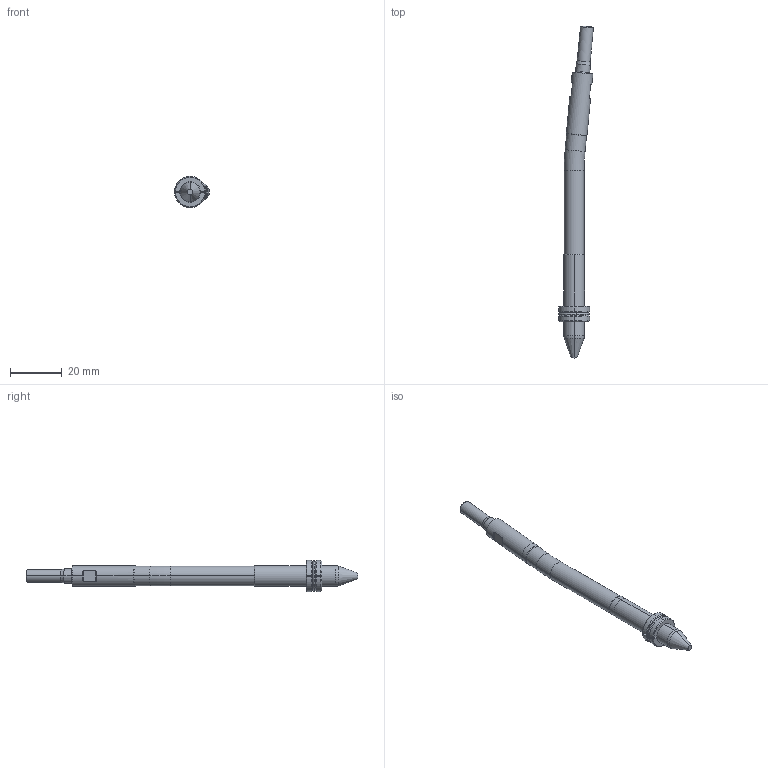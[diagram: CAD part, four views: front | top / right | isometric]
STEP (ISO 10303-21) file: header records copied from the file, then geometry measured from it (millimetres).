
FILE_DESCRIPTION (( 'STEP AP214' ), '1' );
FILE_NAME ('WP080030-INJ 5,5°.STEP', '2021-03-19T15:19:38', ( '' ), ( '' ), 'SwSTEP 2.0', 'SolidWorks 2019', '' );
FILE_SCHEMA (( 'AUTOMOTIVE_DESIGN' ));
Length unit declared in the file: millimetre
Products named in the file (6): WP080030-INJ 5,5°; Web-WP08-1; Web-WP08-7; Web-WP08-F_WP08-F-OFF 5,5ø; Web-WP08-2; Web-WP08-6
Assembly tree (5 placements, depth 2):
  WP080030-INJ 5,5°
    Web-WP08-1
    Web-WP08-F_WP08-F-OFF 5,5ø
    Web-WP08-2
    Web-WP08-6
    Web-WP08-7
Bounding box: 13.43 x 127.98 x 12 mm (x, y, z)
Volume: 5841.2 mm3; surface area: 4095.2 mm2
Topology: 6 solids, 6 shells, 121 faces, 278 edges, 172 vertices
Faces by surface type: cylinder 36, plane 29, cone 28, torus 28
Entity records: 3957 total; most frequent: CARTESIAN_POINT 763, DIRECTION 648, ORIENTED_EDGE 556, AXIS2_PLACEMENT_3D 281, EDGE_CURVE 278, VERTEX_POINT 172, CIRCLE 152, EDGE_LOOP 126
